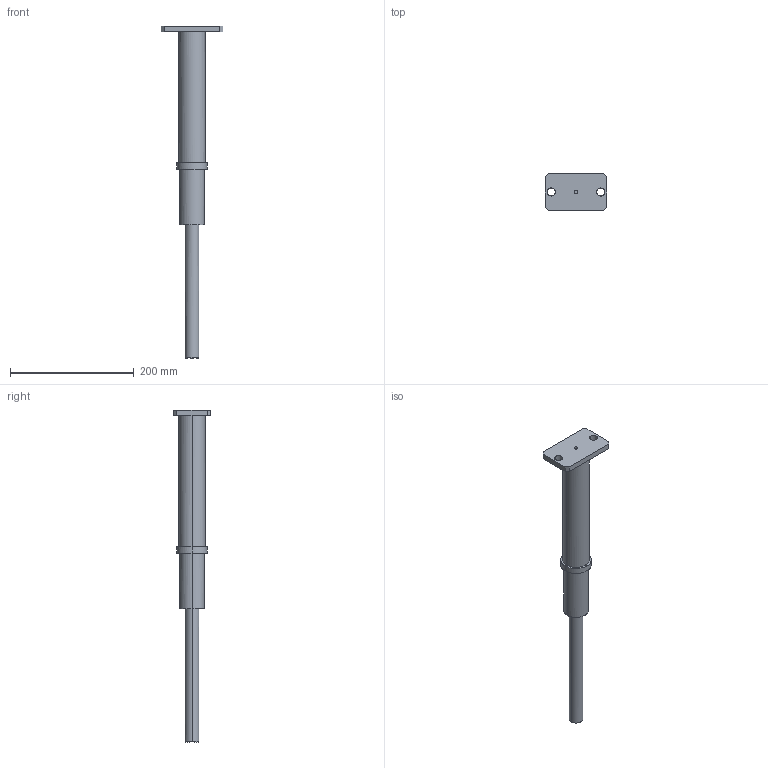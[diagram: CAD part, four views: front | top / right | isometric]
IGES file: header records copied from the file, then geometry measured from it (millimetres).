
Global section: file name: E:\UnigraphicsGraphicData\MISUMI_PRESS-PARTS\IGES\3d_papgu200-90_01671_r00.igs; native system: NX V5.0; preprocessor: UGS NX IGES V5.0; author: MISUMI; date: 20110105.162220; units: millimetre
Bounding box: 100 x 60 x 536 mm (x, y, z)
Surface area: 76045.4 mm2 (no closed solid volume)
Topology: 0 solids, 0 shells, 30 faces, 264 edges, 264 vertices
Faces by surface type: bspline 30
